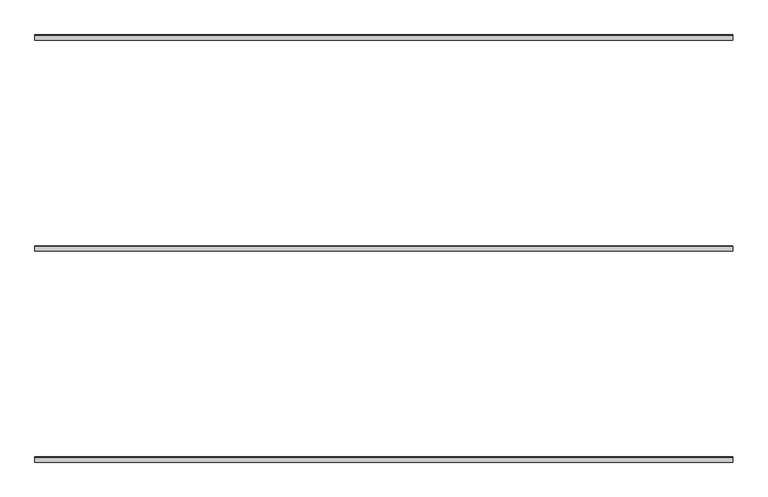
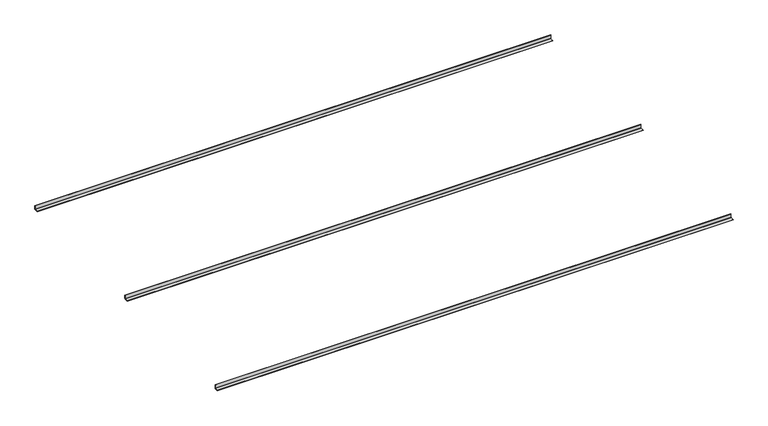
"""IFC4 building model written with IfcOpenShell, lengths in millimetres: proxy geometry, durlum_GEO_9 : durlum_GEO_9."""

from ifc_helpers import new_model, si_unit, point, frame, frame_2d, origin, place, context, project, spatial, polyline, circle_curve, trimmed, segment, composite_curve, outline, extrude, source, transform, mapped, element, save


def generic_models_22f2553a(model_context):
    return source(origin(), model_context, "Body", "SweptSolid", [
        extrude(outline(composite_curve([segment(polyline([(-29.9, 3756.0), (-4.0, 3756.0)]), True, "CONTINUOUS"), segment(trimmed(circle_curve(frame_2d((-4.0, 3758.0)), 2.0), [point((-4.0, 3756.0))], [point((-2.0, 3758.0))], True, "CARTESIAN"), True, "CONTINUOUS"), segment(polyline([(-2.0, 3758.0), (-2.0, 3783.9), (0.0, 3783.9), (0.0, 3758.0)]), True, "CONTINUOUS"), segment(trimmed(circle_curve(frame_2d((-4.0, 3758.0)), 4.0), [point((0.0, 3758.0))], [point((-4.0, 3754.0))], False, "CARTESIAN"), True, "CONTINUOUS"), segment(polyline([(-4.0, 3754.0), (-29.9, 3754.0), (-29.9, 3756.0)]), True, "CONTINUOUS")], self_intersect=False)), frame((-1983.6257032, 0.0, 0.0), z_axis=(1.0, 0.0, 0.0), x_axis=(0.0, 1.0, 0.0)), (0.0, 0.0, 1.0), 3967.2514064),
        extrude(outline(composite_curve([segment(polyline([(1170.1, 3756.0), (1196.0, 3756.0)]), True, "CONTINUOUS"), segment(trimmed(circle_curve(frame_2d((1196.0, 3758.0)), 2.0), [point((1196.0, 3756.0))], [point((1198.0, 3758.0))], True, "CARTESIAN"), True, "CONTINUOUS"), segment(polyline([(1198.0, 3758.0), (1198.0, 3783.9), (1200.0, 3783.9), (1200.0, 3758.0)]), True, "CONTINUOUS"), segment(trimmed(circle_curve(frame_2d((1196.0, 3758.0)), 4.0), [point((1200.0, 3758.0))], [point((1196.0, 3754.0))], False, "CARTESIAN"), True, "CONTINUOUS"), segment(polyline([(1196.0, 3754.0), (1170.1, 3754.0), (1170.1, 3756.0)]), True, "CONTINUOUS")], self_intersect=False)), frame((-1983.6257032, 0.0, 0.0), z_axis=(1.0, 0.0, 0.0), x_axis=(0.0, 1.0, 0.0)), (0.0, 0.0, 1.0), 3967.2514064),
        extrude(outline(composite_curve([segment(polyline([(-1229.9, 3756.0), (-1204.0, 3756.0)]), True, "CONTINUOUS"), segment(trimmed(circle_curve(frame_2d((-1204.0, 3758.0)), 2.0), [point((-1204.0, 3756.0))], [point((-1202.0, 3758.0))], True, "CARTESIAN"), True, "CONTINUOUS"), segment(polyline([(-1202.0, 3758.0), (-1202.0, 3783.9), (-1200.0, 3783.9), (-1200.0, 3758.0)]), True, "CONTINUOUS"), segment(trimmed(circle_curve(frame_2d((-1204.0, 3758.0)), 4.0), [point((-1200.0, 3758.0))], [point((-1204.0, 3754.0))], False, "CARTESIAN"), True, "CONTINUOUS"), segment(polyline([(-1204.0, 3754.0), (-1229.9, 3754.0), (-1229.9, 3756.0)]), True, "CONTINUOUS")], self_intersect=False)), frame((-1983.6257032, 0.0, 0.0), z_axis=(1.0, 0.0, 0.0), x_axis=(0.0, 1.0, 0.0)), (0.0, 0.0, 1.0), 3967.2514064),
    ])


if __name__ == "__main__":
    model = new_model("IFC4")
    model_context = context("Model", 3, world=origin())
    ifc_project = project(units=[si_unit("LENGTHUNIT", "METRE", prefix="MILLI")], contexts=[model_context])
    site = spatial("IfcSite", under=ifc_project)
    building = spatial("IfcBuilding", under=site)
    placement = place(None, origin())
    generic_models_shape = generic_models_22f2553a(model_context)
    element("IfcBuildingElementProxy", 1, Name="durlum_GEO_9 : durlum_GEO_9", ObjectType="durlum_GEO_9 : durlum_GEO_9", at=placement, inside=building, context=model_context, shape_type="MappedRepresentation", body=[
        mapped(generic_models_shape, transform((0.0, 0.0, 0.0), x_axis=(1.0, 0.0, 0.0), y_axis=(0.0, 1.0, 0.0), z_axis=(0.0, 0.0, 1.0))),
    ])
    save(model, "model.ifc")
